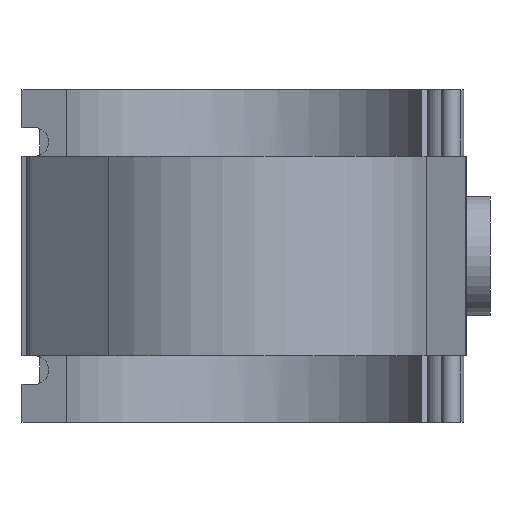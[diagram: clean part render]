
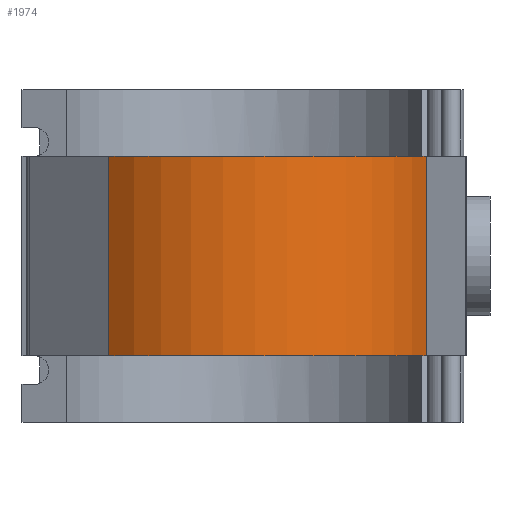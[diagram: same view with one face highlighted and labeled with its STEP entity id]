
A CAD part, front view. The second image highlights one B-rep face of the part: STEP entity #1974.
In plain terms, the highlighted cylindrical face has radius 103 mm (diameter 206 mm), a partial arc.
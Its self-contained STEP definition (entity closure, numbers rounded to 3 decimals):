
#222=FACE_OUTER_BOUND('',#349,.T.);
#349=EDGE_LOOP('',(#1808,#1809,#1810,#1811));
#445=CIRCLE('',#2183,103.);
#448=CIRCLE('',#2187,103.);
#614=LINE('',#3926,#776);
#618=LINE('',#3935,#780);
#776=VECTOR('',#2764,10.);
#780=VECTOR('',#2778,10.);
#961=VERTEX_POINT('',#3889);
#962=VERTEX_POINT('',#3891);
#965=VERTEX_POINT('',#3899);
#966=VERTEX_POINT('',#3901);
#1231=EDGE_CURVE('',#961,#962,#445,.T.);
#1236=EDGE_CURVE('',#965,#966,#448,.T.);
#1250=EDGE_CURVE('',#965,#962,#614,.T.);
#1254=EDGE_CURVE('',#961,#966,#618,.T.);
#1808=ORIENTED_EDGE('',*,*,#1254,.T.);
#1809=ORIENTED_EDGE('',*,*,#1236,.F.);
#1810=ORIENTED_EDGE('',*,*,#1250,.T.);
#1811=ORIENTED_EDGE('',*,*,#1231,.F.);
#1868=CYLINDRICAL_SURFACE('',#2202,103.);
#1974=ADVANCED_FACE('',(#222),#1868,.T.);
#2183=AXIS2_PLACEMENT_3D('',#3892,#2726,#2727);
#2187=AXIS2_PLACEMENT_3D('',#3902,#2736,#2737);
#2202=AXIS2_PLACEMENT_3D('',#3936,#2779,#2780);
#2726=DIRECTION('center_axis',(0.,0.,-1.));
#2727=DIRECTION('ref_axis',(0.695,0.719,0.));
#2736=DIRECTION('center_axis',(0.,0.,1.));
#2737=DIRECTION('ref_axis',(0.695,0.719,0.));
#2764=DIRECTION('',(0.,0.,-1.));
#2778=DIRECTION('',(0.,0.,1.));
#2779=DIRECTION('center_axis',(0.,0.,1.));
#2780=DIRECTION('ref_axis',(0.695,0.719,0.));
#3889=CARTESIAN_POINT('',(96.24,-36.701,-52.8));
#3891=CARTESIAN_POINT('',(-71.559,-74.083,-52.8));
#3892=CARTESIAN_POINT('Origin',(0.,0.,
-52.8));
#3899=CARTESIAN_POINT('',(-71.559,-74.083,52.8));
#3901=CARTESIAN_POINT('',(96.24,-36.701,52.8));
#3902=CARTESIAN_POINT('Origin',(0.,0.,
52.8));
#3926=CARTESIAN_POINT('',(-71.559,-74.083,0.));
#3935=CARTESIAN_POINT('',(96.24,-36.701,0.));
#3936=CARTESIAN_POINT('Origin',(0.,0.,
0.));
